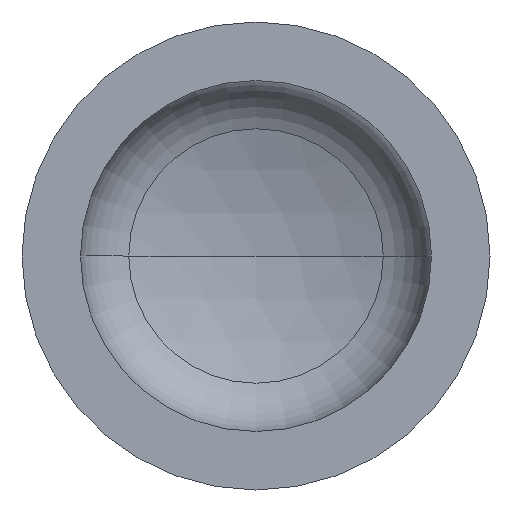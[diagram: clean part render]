
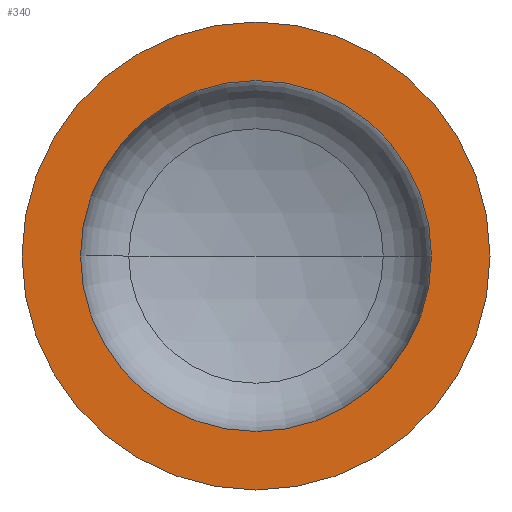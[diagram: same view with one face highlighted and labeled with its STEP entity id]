
A CAD part, front view. The second image highlights one B-rep face of the part: STEP entity #340.
In plain terms, the highlighted planar face has unit normal (0, -1, 0).
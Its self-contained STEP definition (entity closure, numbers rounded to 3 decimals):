
#12 = AXIS2_PLACEMENT_3D ( 'NONE', #124, #162, #163 ) ;
#14 = VERTEX_POINT ( 'NONE', #298 ) ;
#15 = AXIS2_PLACEMENT_3D ( 'NONE', #252, #373, #182 ) ;
#17 = EDGE_LOOP ( 'NONE', ( #34, #24 ) ) ;
#24 = ORIENTED_EDGE ( 'NONE', *, *, #90, .T. ) ;
#29 = VERTEX_POINT ( 'NONE', #301 ) ;
#34 = ORIENTED_EDGE ( 'NONE', *, *, #83, .T. ) ;
#44 = ORIENTED_EDGE ( 'NONE', *, *, #91, .F. ) ;
#49 = EDGE_LOOP ( 'NONE', ( #44, #218 ) ) ;
#69 = AXIS2_PLACEMENT_3D ( 'NONE', #343, #339, #354 ) ;
#72 = AXIS2_PLACEMENT_3D ( 'NONE', #318, #196, #212 ) ;
#80 = AXIS2_PLACEMENT_3D ( 'NONE', #243, #241, #237 ) ;
#83 = EDGE_CURVE ( 'NONE', #29, #117, #337, .T. ) ;
#90 = EDGE_CURVE ( 'NONE', #117, #29, #387, .T. ) ;
#91 = EDGE_CURVE ( 'NONE', #128, #14, #272, .T. ) ;
#117 = VERTEX_POINT ( 'NONE', #230 ) ;
#124 = CARTESIAN_POINT ( 'NONE',  ( -400., 0., 0. ) ) ;
#128 = VERTEX_POINT ( 'NONE', #140 ) ;
#134 = PLANE ( 'NONE',  #12 ) ;
#140 = CARTESIAN_POINT ( 'NONE',  ( 300., 0., 0. ) ) ;
#162 = DIRECTION ( 'NONE',  ( 0., 1., 0. ) ) ;
#163 = DIRECTION ( 'NONE',  ( -1., 0., 0. ) ) ;
#182 = DIRECTION ( 'NONE',  ( 1., 0., 0. ) ) ;
#196 = DIRECTION ( 'NONE',  ( 0., -1., 0. ) ) ;
#212 = DIRECTION ( 'NONE',  ( 1., 0., 0. ) ) ;
#218 = ORIENTED_EDGE ( 'NONE', *, *, #344, .F. ) ;
#230 = CARTESIAN_POINT ( 'NONE',  ( -400., 0., 0. ) ) ;
#237 = DIRECTION ( 'NONE',  ( 1., 0., 0. ) ) ;
#241 = DIRECTION ( 'NONE',  ( 0., -1., 0. ) ) ;
#243 = CARTESIAN_POINT ( 'NONE',  ( 0., 0., 0. ) ) ;
#252 = CARTESIAN_POINT ( 'NONE',  ( 0., 0., 0. ) ) ;
#272 = CIRCLE ( 'NONE', #69, 300. ) ;
#298 = CARTESIAN_POINT ( 'NONE',  ( -300., 0., 0. ) ) ;
#301 = CARTESIAN_POINT ( 'NONE',  ( 400., 0., 0. ) ) ;
#318 = CARTESIAN_POINT ( 'NONE',  ( 0., 0., 0. ) ) ;
#337 = CIRCLE ( 'NONE', #80, 400. ) ;
#339 = DIRECTION ( 'NONE',  ( 0., -1., 0. ) ) ;
#340 = ADVANCED_FACE ( 'NONE', ( #404, #355 ), #134, .F. ) ;
#343 = CARTESIAN_POINT ( 'NONE',  ( 0., 0., 0. ) ) ;
#344 = EDGE_CURVE ( 'NONE', #14, #128, #350, .T. ) ;
#350 = CIRCLE ( 'NONE', #15, 300. ) ;
#354 = DIRECTION ( 'NONE',  ( 1., 0., 0. ) ) ;
#355 = FACE_OUTER_BOUND ( 'NONE', #17, .T. ) ;
#373 = DIRECTION ( 'NONE',  ( 0., -1., 0. ) ) ;
#387 = CIRCLE ( 'NONE', #72, 400. ) ;
#404 = FACE_BOUND ( 'NONE', #49, .T. ) ;
